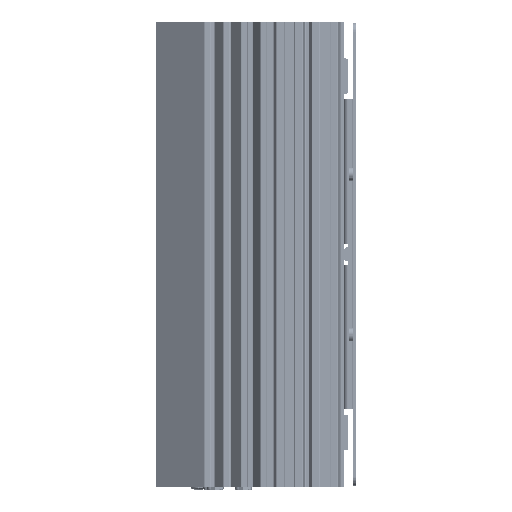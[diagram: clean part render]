
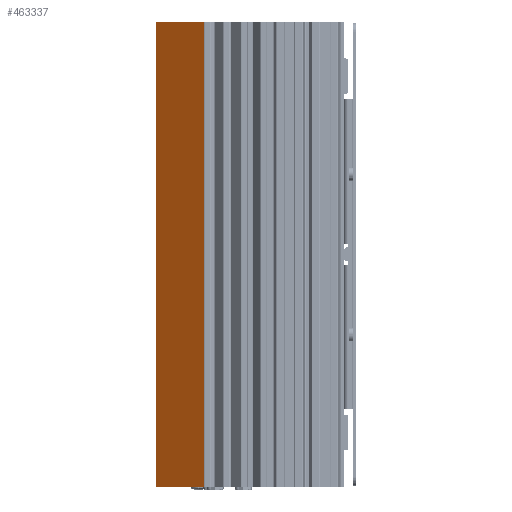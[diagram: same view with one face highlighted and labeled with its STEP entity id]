
A CAD part, left-side view. The second image highlights one B-rep face of the part: STEP entity #463337.
In plain terms, the highlighted planar face has unit normal (-0.819, 0.574, 0).
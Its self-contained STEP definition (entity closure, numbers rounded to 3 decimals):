
#5950 = VECTOR ( 'NONE', #723559, 1000. ) ;
#9918 = CARTESIAN_POINT ( 'NONE',  ( -94.26, 19.8, 130.5 ) ) ;
#66814 = CARTESIAN_POINT ( 'NONE',  ( -94.42, 19.571, 130.5 ) ) ;
#113673 = VERTEX_POINT ( 'NONE', #283723 ) ;
#131937 = EDGE_CURVE ( 'NONE', #828407, #810582, #348865, .T. ) ;
#134186 = DIRECTION ( 'NONE',  ( 0.819, -0.574, 0. ) ) ;
#141067 = DIRECTION ( 'NONE',  ( -0.574, -0.819, 0. ) ) ;
#150674 = ORIENTED_EDGE ( 'NONE', *, *, #131937, .T. ) ;
#153063 = FACE_OUTER_BOUND ( 'NONE', #405127, .T. ) ;
#159022 = LINE ( 'NONE', #846570, #5950 ) ;
#202986 = EDGE_CURVE ( 'NONE', #828407, #113673, #406294, .T. ) ;
#228377 = EDGE_CURVE ( 'NONE', #340475, #113673, #431742, .T. ) ;
#253035 = CARTESIAN_POINT ( 'NONE',  ( -94.42, 19.571, -130.5 ) ) ;
#260017 = DIRECTION ( 'NONE',  ( 0.574, 0.819, 0. ) ) ;
#268946 = EDGE_CURVE ( 'NONE', #810582, #340475, #159022, .T. ) ;
#283723 = CARTESIAN_POINT ( 'NONE',  ( -113.398, -7.532, 130.5 ) ) ;
#283738 = CARTESIAN_POINT ( 'NONE',  ( -94.42, 19.571, 130.5 ) ) ;
#310298 = DIRECTION ( 'NONE',  ( 0., 0., 1. ) ) ;
#340475 = VERTEX_POINT ( 'NONE', #553673 ) ;
#348865 = LINE ( 'NONE', #283738, #522404 ) ;
#405127 = EDGE_LOOP ( 'NONE', ( #793326, #542015, #797643, #150674 ) ) ;
#406294 = LINE ( 'NONE', #9918, #824854 ) ;
#409359 = DIRECTION ( 'NONE',  ( 0., 0., -1. ) ) ;
#431742 = LINE ( 'NONE', #647060, #840564 ) ;
#463337 = ADVANCED_FACE ( 'NONE', ( #153063 ), #651119, .F. ) ;
#481673 = AXIS2_PLACEMENT_3D ( 'NONE', #525358, #134186, #260017 ) ;
#522404 = VECTOR ( 'NONE', #409359, 1000. ) ;
#525358 = CARTESIAN_POINT ( 'NONE',  ( -94.26, 19.8, 130.5 ) ) ;
#542015 = ORIENTED_EDGE ( 'NONE', *, *, #228377, .T. ) ;
#553673 = CARTESIAN_POINT ( 'NONE',  ( -113.398, -7.532, -130.5 ) ) ;
#647060 = CARTESIAN_POINT ( 'NONE',  ( -113.398, -7.532, 130.5 ) ) ;
#651119 = PLANE ( 'NONE',  #481673 ) ;
#723559 = DIRECTION ( 'NONE',  ( -0.574, -0.819, 0. ) ) ;
#793326 = ORIENTED_EDGE ( 'NONE', *, *, #268946, .T. ) ;
#797643 = ORIENTED_EDGE ( 'NONE', *, *, #202986, .F. ) ;
#810582 = VERTEX_POINT ( 'NONE', #253035 ) ;
#824854 = VECTOR ( 'NONE', #141067, 1000. ) ;
#828407 = VERTEX_POINT ( 'NONE', #66814 ) ;
#840564 = VECTOR ( 'NONE', #310298, 1000. ) ;
#846570 = CARTESIAN_POINT ( 'NONE',  ( -94.26, 19.8, -130.5 ) ) ;
